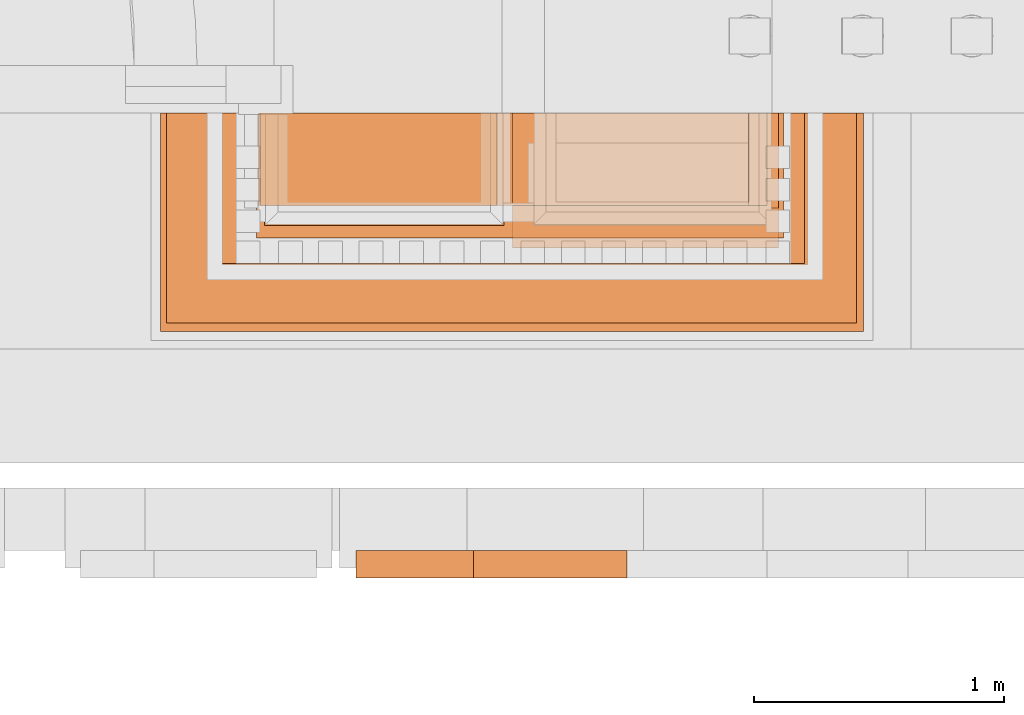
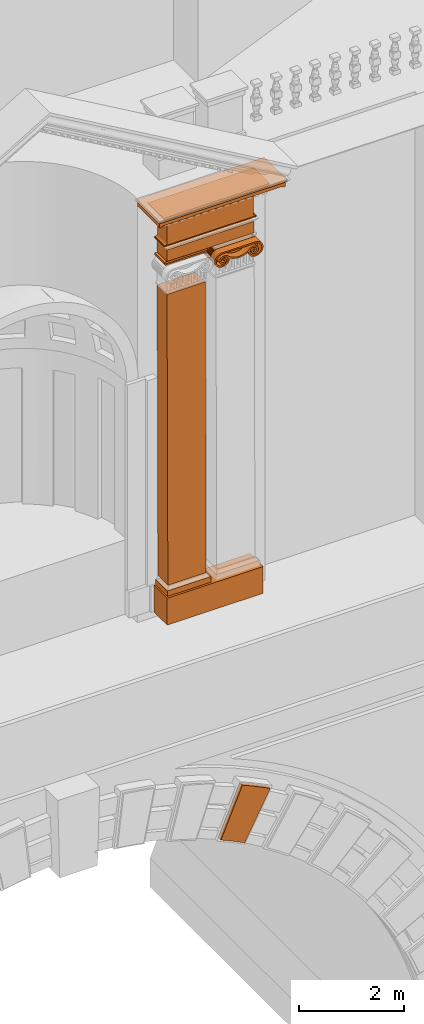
# One storey, part 9 of 44: 14 proxies.
"""IFC2X3 building model written with IfcOpenShell, lengths in metres."""

from ifc_helpers import new_model, entity, si_unit, converted_unit, derived_unit, direction, frame, frame_2d, origin, place, context, subcontext, project, spatial, polyline, circle_curve, parameter, trimmed, segment, composite_curve, rectangle, outline, extrude, material, element, save


model = new_model("IFC2X3")

# Units and contexts
model_context = context("Model", 3, precision=1e-05, world=origin(), true_north=direction((6.12303176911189e-17, 1.0)))
body_context = subcontext(model_context, "Body", "Model", "MODEL_VIEW")
ifc_project = project(units=[si_unit("LENGTHUNIT", "METRE"), si_unit("AREAUNIT", "SQUARE_METRE"), si_unit("VOLUMEUNIT", "CUBIC_METRE"), converted_unit("PLANEANGLEUNIT", "DEGREE", entity("IfcRatioMeasure", 0.0174532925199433), si_unit("PLANEANGLEUNIT", "RADIAN"), dimensions=[0, 0, 0, 0, 0, 0, 0]), si_unit("MASSUNIT", "GRAM", prefix="KILO"), derived_unit("MASSDENSITYUNIT", [(si_unit("MASSUNIT", "GRAM", prefix="KILO"), 1), (si_unit("LENGTHUNIT", "METRE"), -3)]), si_unit("TIMEUNIT", "SECOND"), si_unit("FREQUENCYUNIT", "HERTZ"), si_unit("THERMODYNAMICTEMPERATUREUNIT", "DEGREE_CELSIUS"), derived_unit("THERMALTRANSMITTANCEUNIT", [(si_unit("MASSUNIT", "GRAM", prefix="KILO"), 1), (si_unit("THERMODYNAMICTEMPERATUREUNIT", "KELVIN"), -1), (si_unit("TIMEUNIT", "SECOND"), -3)]), derived_unit("VOLUMETRICFLOWRATEUNIT", [(si_unit("LENGTHUNIT", "METRE"), 3), (si_unit("TIMEUNIT", "SECOND"), -1)]), si_unit("ELECTRICCURRENTUNIT", "AMPERE"), si_unit("ELECTRICVOLTAGEUNIT", "VOLT"), si_unit("POWERUNIT", "WATT"), si_unit("FORCEUNIT", "NEWTON", prefix="KILO"), si_unit("ILLUMINANCEUNIT", "LUX"), si_unit("LUMINOUSFLUXUNIT", "LUMEN"), si_unit("LUMINOUSINTENSITYUNIT", "CANDELA"), derived_unit("USERDEFINED", [(si_unit("MASSUNIT", "GRAM", prefix="KILO"), -1), (si_unit("LENGTHUNIT", "METRE"), -2), (si_unit("TIMEUNIT", "SECOND"), 3), (si_unit("LUMINOUSFLUXUNIT", "LUMEN"), 1)]), derived_unit("LINEARVELOCITYUNIT", [(si_unit("LENGTHUNIT", "METRE"), 1), (si_unit("TIMEUNIT", "SECOND"), -1)]), si_unit("PRESSUREUNIT", "PASCAL"), derived_unit("USERDEFINED", [(si_unit("LENGTHUNIT", "METRE"), -2), (si_unit("MASSUNIT", "GRAM", prefix="KILO"), 1), (si_unit("TIMEUNIT", "SECOND"), -2)])], contexts=[model_context])

# Site, building, storey
site_placement = place(None, origin())
site = spatial("IfcSite", under=ifc_project, at=site_placement, Name="Default", CompositionType="ELEMENT")
building_placement = place(site_placement, origin())
building = spatial("IfcBuilding", under=site, at=building_placement, CompositionType="ELEMENT")
storey_placement = place(building_placement, origin())
storey = spatial("IfcBuildingStorey", under=building, at=storey_placement, Name="Livello 1", CompositionType="ELEMENT", Elevation=0.0)

# Proxies
ifc_material_1 = material(Name="Piperno")
proxy_1_placement = place(storey_placement, frame((3.14397828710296, -0.594467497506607, 8.79862642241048)))
element("IfcBuildingElementProxy", 1, at=proxy_1_placement, inside=storey, material=ifc_material_1, Name="Stratigrafia", context=body_context, shape_type="SweptSolid", body=[
    extrude(outline(composite_curve([segment(trimmed(circle_curve(frame_2d((-1.33809374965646, 8.57336817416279), x_axis=(1.0, 0.0)), 9.28496378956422), [parameter(276.782159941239)], [parameter(280.96038991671)], True, "PARAMETER"), True, "CONTINUOUS"), segment(polyline([(0.427259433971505, -0.542227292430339), (0.191822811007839, 0.638881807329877)]), True, "CONTINUOUS"), segment(trimmed(circle_curve(frame_2d((-1.33947047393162, 8.57665166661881), x_axis=(1.0, 0.0)), 8.08412329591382), [parameter(276.834147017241)], [parameter(280.918928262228)], True, "PARAMETER"), False, "CONTINUOUS"), segment(polyline([(-0.377494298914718, 0.549967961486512), (-0.241587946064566, -0.646622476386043)]), True, "CONTINUOUS")], self_intersect=False)), frame((0.519676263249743, 0.0, 0.668647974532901), z_axis=(0.0, 1.0, 0.0), x_axis=(0.958865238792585, 0.0, -0.283861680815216)), (0.0, 0.0, 1.0), 0.11),
])
proxy_2_placement = place(storey_placement, frame((2.7483209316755, 0.763372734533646, 13.3457681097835)))
element("IfcBuildingElementProxy", 2, at=proxy_2_placement, inside=storey, material=ifc_material_1, Name="Stratigrafia", context=body_context, shape_type="SweptSolid", body=[
    extrude(rectangle(XDim=0.620950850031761, YDim=0.5, at=frame_2d((0.0, 0.0), x_axis=(0.0, 1.0))), frame((0.0, 0.25, 0.310475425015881), z_axis=(1.0, 0.0, 0.0), x_axis=(0.0, 1.0, 0.0)), (0.0, 0.0, 1.0), 2.1056955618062),
])
proxy_3_placement = place(storey_placement, frame((2.78003302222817, 0.813372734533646, 13.9667189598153)))
element("IfcBuildingElementProxy", 3, at=proxy_3_placement, inside=storey, material=ifc_material_1, Name="Stratigrafia", context=body_context, shape_type="SweptSolid", body=[
    extrude(rectangle(XDim=0.129364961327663, YDim=0.45, at=frame_2d((0.0, 0.0), x_axis=(0.0, 1.0))), frame((0.0, 0.225, 0.0646824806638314), z_axis=(1.0, 0.0, 0.0), x_axis=(0.0, 1.0, 0.0)), (0.0, 0.0, 1.0), 0.956412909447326),
])
proxy_4_placement = place(storey_placement, frame((2.81591297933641, 0.883372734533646, 14.1670132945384)))
element("IfcBuildingElementProxy", 4, at=proxy_4_placement, inside=storey, material=ifc_material_1, Name="Stratigrafia", context=body_context, shape_type="SweptSolid", body=[
    extrude(rectangle(XDim=6.74573124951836, YDim=0.38, at=frame_2d((1.2490009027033e-16, 0.0), x_axis=(0.0, 1.0))), frame((0.00875481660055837, 0.19, 3.37285426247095), z_axis=(0.999996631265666, 0.0, 0.00259566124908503), x_axis=(0.0, 1.0, 0.0)), (0.0, -0.00259566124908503, 0.999996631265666), 0.838920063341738),
])
ifc_material_2 = material(Name="Travertino")
proxy_5_placement = place(storey_placement, frame((3.76888137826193, 0.723372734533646, 21.2504881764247)))
element("IfcBuildingElementProxy", 5, at=proxy_5_placement, inside=storey, material=ifc_material_2, Name="Stratigrafia", context=body_context, shape_type="SweptSolid", body=[
    extrude(outline(composite_curve([segment(trimmed(circle_curve(frame_2d((0.0787255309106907, -0.360085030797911), x_axis=(1.0, 0.0)), 0.16781941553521), [parameter(138.334994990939)], [parameter(7.37888686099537e-11)], True, "PARAMETER"), True, "CONTINUOUS"), segment(polyline([(0.246544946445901, -0.360085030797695), (0.201674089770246, 0.387005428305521)]), True, "CONTINUOUS"), segment(trimmed(circle_curve(frame_2d((0.0350610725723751, 0.366919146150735), x_axis=(0.992811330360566, 0.119689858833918)), 0.16781941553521), [parameter(359.999999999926)], [parameter(221.665005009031)], True, "PARAMETER"), True, "CONTINUOUS"), segment(trimmed(circle_curve(frame_2d((0.414185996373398, 0.768509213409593), x_axis=(-0.680862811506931, -0.73241097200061)), 0.720026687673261), [parameter(1.57246623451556e-11)], [parameter(0.524781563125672)], True, "PARAMETER"), True, "CONTINUOUS"), segment(trimmed(circle_curve(frame_2d((0.0654093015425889, 0.385758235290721), x_axis=(-0.675623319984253, -0.737246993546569)), 0.202201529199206), [parameter(5.00746529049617e-11)], [parameter(2.78712703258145)], True, "PARAMETER"), True, "CONTINUOUS"), segment(trimmed(circle_curve(frame_2d((0.0034302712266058, 0.311114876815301), x_axis=(-0.63911629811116, -0.76911010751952)), 0.105180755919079), [parameter(359.999999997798)], [parameter(5.29737023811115)], True, "PARAMETER"), True, "CONTINUOUS"), segment(trimmed(circle_curve(frame_2d((-0.0122994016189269, 0.288731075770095), x_axis=(-0.561992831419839, -0.827142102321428)), 0.0778253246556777), [parameter(3.11948803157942e-10)], [parameter(11.8444704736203)], True, "PARAMETER"), True, "CONTINUOUS"), segment(trimmed(circle_curve(frame_2d((-0.00650885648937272, 0.302109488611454), x_axis=(-0.382936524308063, -0.923774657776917)), 0.0924010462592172), [parameter(5.64917400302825e-10)], [parameter(4.23396444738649)], True, "PARAMETER"), True, "CONTINUOUS"), segment(trimmed(circle_curve(frame_2d((0.0100793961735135, 0.315934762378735), x_axis=(0.273943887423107, 0.961745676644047)), 0.111318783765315), [parameter(171.73216175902)], [parameter(203.761085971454)], True, "PARAMETER"), True, "CONTINUOUS"), segment(trimmed(circle_curve(frame_2d((0.351764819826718, 0.0211272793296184), x_axis=(-0.80538962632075, -0.592745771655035)), 0.375004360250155), [parameter(294.170004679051)], [parameter(359.999999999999)], True, "PARAMETER"), True, "CONTINUOUS"), segment(trimmed(circle_curve(frame_2d((0.0478211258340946, -0.312457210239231), x_axis=(0.387085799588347, -0.922043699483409)), 0.111318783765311), [parameter(156.238914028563)], [parameter(188.26783824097)], True, "PARAMETER"), True, "CONTINUOUS"), segment(trimmed(circle_curve(frame_2d((0.0296973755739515, -0.300716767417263), x_axis=(-0.49075017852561, 0.871300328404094)), 0.0924010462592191), [parameter(355.766035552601)], [parameter(359.999999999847)], True, "PARAMETER"), True, "CONTINUOUS"), segment(trimmed(circle_curve(frame_2d((0.0223471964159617, -0.288127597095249), x_axis=(-0.656953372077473, 0.753931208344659)), 0.0778253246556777), [parameter(348.155529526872)], [parameter(359.999999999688)], True, "PARAMETER"), True, "CONTINUOUS"), segment(trimmed(circle_curve(frame_2d((0.0406429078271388, -0.308467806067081), x_axis=(-0.726576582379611, 0.687085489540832)), 0.105180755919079), [parameter(354.702629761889)], [parameter(2.20252139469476e-09)], True, "PARAMETER"), True, "CONTINUOUS"), segment(trimmed(circle_curve(frame_2d((0.11111044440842, -0.37515631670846), x_axis=(-0.759007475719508, 0.651081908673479)), 0.202201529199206), [parameter(357.21287296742)], [parameter(359.999999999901)], True, "PARAMETER"), True, "CONTINUOUS"), segment(trimmed(circle_curve(frame_2d((0.503191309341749, -0.713410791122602), x_axis=(-0.763630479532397, 0.645653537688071)), 0.72002668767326), [parameter(359.475218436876)], [parameter(359.999999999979)], True, "PARAMETER"), True, "CONTINUOUS")], self_intersect=False), holes=[composite_curve([segment(trimmed(circle_curve(frame_2d((0.0296569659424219, -0.26637388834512), x_axis=(0.295331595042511, -0.955394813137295)), 0.160844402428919), [parameter(359.999999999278)], [parameter(5.20756886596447)], True, "PARAMETER"), True, "CONTINUOUS"), segment(trimmed(circle_curve(frame_2d((0.0478211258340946, -0.312457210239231), x_axis=(0.387085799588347, -0.922043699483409)), 0.111318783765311), [parameter(359.999999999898)], [parameter(121.742469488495)], True, "PARAMETER"), True, "CONTINUOUS"), segment(trimmed(circle_curve(frame_2d((0.351764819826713, 0.0211272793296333), x_axis=(-0.701786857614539, -0.712386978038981)), 0.341023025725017), [parameter(357.930960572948)], [parameter(1.17553301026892e-11)], True, "PARAMETER"), False, "CONTINUOUS"), segment(trimmed(circle_curve(frame_2d((0.351764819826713, 0.0211272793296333), x_axis=(-0.701786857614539, -0.712386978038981)), 0.341023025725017), [parameter(276.015284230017)], [parameter(357.930960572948)], True, "PARAMETER"), False, "CONTINUOUS"), segment(trimmed(circle_curve(frame_2d((0.0100793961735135, 0.315934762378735), x_axis=(0.273943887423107, 0.961745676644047)), 0.111318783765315), [parameter(238.257530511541)], [parameter(1.04576637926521e-10)], True, "PARAMETER"), True, "CONTINUOUS"), segment(trimmed(circle_curve(frame_2d((-0.00243848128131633, 0.268008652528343), x_axis=(0.178857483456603, 0.983874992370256)), 0.160844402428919), [parameter(354.792431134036)], [parameter(3.45942571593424e-10)], True, "PARAMETER"), True, "CONTINUOUS"), segment(trimmed(circle_curve(frame_2d((0.0120654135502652, 0.34855128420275), x_axis=(-0.97200284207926, 0.234969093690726)), 0.0790065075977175), [parameter(273.188220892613)], [parameter(2.02537722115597e-11)], True, "PARAMETER"), True, "CONTINUOUS"), segment(trimmed(circle_curve(frame_2d((0.0219940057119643, 0.35202260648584), x_axis=(-0.899948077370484, -0.435997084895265)), 0.0880266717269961), [parameter(324.278715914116)], [parameter(1.66915509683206e-11)], True, "PARAMETER"), True, "CONTINUOUS"), segment(trimmed(circle_curve(frame_2d((0.00683135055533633, 0.344085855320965), x_axis=(-0.691793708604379, -0.722095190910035)), 0.0709226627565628), [parameter(339.191403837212)], [parameter(359.999999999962)], True, "PARAMETER"), True, "CONTINUOUS"), segment(trimmed(circle_curve(frame_2d((-0.0044183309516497, 0.331612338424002), x_axis=(-0.0602856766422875, -0.998181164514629)), 0.0541354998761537), [parameter(319.148653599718)], [parameter(359.999999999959)], True, "PARAMETER"), True, "CONTINUOUS"), segment(polyline([(-0.00768192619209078, 0.277575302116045), (0.0045505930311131, 0.277674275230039)]), True, "CONTINUOUS"), segment(polyline([(0.0045505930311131, 0.277674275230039), (0.0163739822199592, 0.280802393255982)]), True, "CONTINUOUS"), segment(polyline([(0.0163739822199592, 0.280802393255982), (0.0270458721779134, 0.286763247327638)]), True, "CONTINUOUS"), segment(polyline([(0.0270458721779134, 0.286763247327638), (0.0358961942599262, 0.295182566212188)]), True, "CONTINUOUS"), segment(polyline([(0.0358961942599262, 0.295182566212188), (0.0423692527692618, 0.30553171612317)]), True, "CONTINUOUS"), segment(polyline([(0.0423692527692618, 0.30553171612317), (0.0460586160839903, 0.317160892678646)]), True, "CONTINUOUS"), segment(polyline([(0.0460586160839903, 0.317160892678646), (0.0467326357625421, 0.329339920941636)]), True, "CONTINUOUS"), segment(polyline([(0.0467326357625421, 0.329339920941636), (0.0443489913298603, 0.341304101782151)]), True, "CONTINUOUS"), segment(trimmed(circle_curve(frame_2d((0.0290576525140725, 0.333702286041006), x_axis=(-0.983154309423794, -0.182777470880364)), 0.0170766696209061), [parameter(195.90186506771)], [parameter(3.20599911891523e-12)], True, "PARAMETER"), True, "CONTINUOUS"), segment(trimmed(circle_curve(frame_2d((-0.0018332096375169, 0.32592647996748), x_axis=(0.949609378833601, 0.313435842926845)), 0.0148501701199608), [parameter(257.204928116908)], [parameter(360.0)], True, "PARAMETER"), False, "CONTINUOUS"), segment(trimmed(circle_curve(frame_2d((-0.00196165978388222, 0.326174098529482), x_axis=(0.102214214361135, -0.994762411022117)), 0.0151092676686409), [parameter(347.420423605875)], [parameter(4.57389207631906e-10)], True, "PARAMETER"), False, "CONTINUOUS"), segment(trimmed(circle_curve(frame_2d((-0.00394145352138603, 0.33230876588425), x_axis=(0.0101038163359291, -0.999948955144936)), 0.0211414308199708), [parameter(315.114326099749)], [parameter(359.999999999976)], True, "PARAMETER"), False, "CONTINUOUS"), segment(trimmed(circle_curve(frame_2d((0.00683135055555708, 0.344085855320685), x_axis=(-0.688455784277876, -0.725278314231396)), 0.037097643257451), [parameter(338.739254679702)], [parameter(2.05438387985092e-10)], True, "PARAMETER"), False, "CONTINUOUS"), segment(trimmed(circle_curve(frame_2d((0.021994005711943, 0.352022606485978), x_axis=(-0.898883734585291, -0.43818721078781)), 0.0542016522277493), [parameter(325.321462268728)], [parameter(1.02286638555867e-10)], True, "PARAMETER"), False, "CONTINUOUS"), segment(trimmed(circle_curve(frame_2d((0.012065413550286, 0.348551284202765), x_axis=(-0.966121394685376, 0.258088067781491)), 0.0451814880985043), [parameter(274.521210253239)], [parameter(2.59533262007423e-11)], True, "PARAMETER"), False, "CONTINUOUS"), segment(trimmed(circle_curve(frame_2d((-0.00243848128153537, 0.268008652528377), x_axis=(0.17861447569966, 0.983919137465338)), 0.127019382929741), [parameter(354.831611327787)], [parameter(359.999999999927)], True, "PARAMETER"), False, "CONTINUOUS"), segment(trimmed(circle_curve(frame_2d((0.0099262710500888, 0.315856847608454), x_axis=(0.276878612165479, 0.960904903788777)), 0.0776109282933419), [parameter(169.426101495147)], [parameter(1.4538951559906e-10)], True, "PARAMETER"), False, "CONTINUOUS"), segment(trimmed(circle_curve(frame_2d((-0.00650885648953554, 0.302109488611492), x_axis=(-0.38373334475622, -0.923443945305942)), 0.0585760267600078), [parameter(2.60703706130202e-10)], [parameter(4.28424685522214)], True, "PARAMETER"), False, "CONTINUOUS"), segment(trimmed(circle_curve(frame_2d((-0.012299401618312, 0.288731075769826), x_axis=(-0.56074832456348, -0.827986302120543)), 0.0440003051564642), [parameter(3.41464350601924e-11)], [parameter(11.8204528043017)], True, "PARAMETER"), False, "CONTINUOUS"), segment(trimmed(circle_curve(frame_2d((0.00347121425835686, 0.311169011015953), x_axis=(-0.639149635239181, -0.769082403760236)), 0.071423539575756), [parameter(359.999999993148)], [parameter(5.23917008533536)], True, "PARAMETER"), False, "CONTINUOUS"), segment(trimmed(circle_curve(frame_2d((0.0654093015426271, 0.385758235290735), x_axis=(-0.67576849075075, -0.737113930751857)), 0.168376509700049), [parameter(9.52130849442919e-11)], [parameter(2.79841011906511)], True, "PARAMETER"), False, "CONTINUOUS"), segment(trimmed(circle_curve(frame_2d((0.41418599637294, 0.768509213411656), x_axis=(-0.681339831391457, -0.731967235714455)), 0.68620166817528), [parameter(1.32311074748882e-12)], [parameter(0.565071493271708)], True, "PARAMETER"), False, "CONTINUOUS"), segment(trimmed(circle_curve(frame_2d((0.0350610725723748, 0.366919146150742), x_axis=(0.992811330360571, 0.119689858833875)), 0.133994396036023), [parameter(360.0)], [parameter(221.839978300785)], True, "PARAMETER"), False, "CONTINUOUS"), segment(polyline([(0.16809222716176, 0.382956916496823), (0.212470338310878, -0.351910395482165)]), True, "CONTINUOUS"), segment(trimmed(circle_curve(frame_2d((0.0787255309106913, -0.36008503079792), x_axis=(1.0, 0.0)), 0.133994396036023), [parameter(138.160021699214)], [parameter(3.49763230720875)], True, "PARAMETER"), False, "CONTINUOUS"), segment(trimmed(circle_curve(frame_2d((0.503191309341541, -0.713410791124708), x_axis=(-0.764050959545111, 0.645155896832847)), 0.68620166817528), [parameter(359.434928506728)], [parameter(359.999999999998)], True, "PARAMETER"), False, "CONTINUOUS"), segment(trimmed(circle_curve(frame_2d((0.11111044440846, -0.375156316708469), x_axis=(-0.759135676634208, 0.65093242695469)), 0.168376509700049), [parameter(357.201589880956)], [parameter(359.999999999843)], True, "PARAMETER"), False, "CONTINUOUS"), segment(trimmed(circle_curve(frame_2d((0.0406900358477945, -0.308516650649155), x_axis=(-0.726606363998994, 0.687053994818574)), 0.0714235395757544), [parameter(354.760829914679)], [parameter(6.52532776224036e-09)], True, "PARAMETER"), False, "CONTINUOUS"), segment(trimmed(circle_curve(frame_2d((0.0223471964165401, -0.288127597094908), x_axis=(-0.655818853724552, 0.754918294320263)), 0.0440003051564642), [parameter(348.179547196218)], [parameter(359.999999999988)], True, "PARAMETER"), False, "CONTINUOUS"), segment(trimmed(circle_curve(frame_2d((0.0296973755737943, -0.300716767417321), x_axis=(-0.491501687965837, 0.870876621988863)), 0.0585760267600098), [parameter(355.715753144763)], [parameter(1.29664853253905e-10)], True, "PARAMETER"), False, "CONTINUOUS"), segment(trimmed(circle_curve(frame_2d((0.04765977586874, -0.312398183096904), x_axis=(0.389898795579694, -0.92085771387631)), 0.0776109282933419), [parameter(359.999999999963)], [parameter(190.573898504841)], True, "PARAMETER"), False, "CONTINUOUS"), segment(trimmed(circle_curve(frame_2d((0.0296569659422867, -0.26637388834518), x_axis=(0.295095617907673, -0.955467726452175)), 0.127019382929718), [parameter(1.52310402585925e-10)], [parameter(5.1683886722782)], True, "PARAMETER"), False, "CONTINUOUS"), segment(trimmed(circle_curve(frame_2d((0.0536967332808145, -0.344601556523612), x_axis=(-0.928285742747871, -0.371867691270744)), 0.0451814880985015), [parameter(359.999999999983)], [parameter(85.4787897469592)], True, "PARAMETER"), False, "CONTINUOUS"), segment(trimmed(circle_curve(frame_2d((0.0639694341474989, -0.34685957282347), x_axis=(-0.944868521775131, 0.327449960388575)), 0.0542016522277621), [parameter(359.999999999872)], [parameter(34.6785377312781)], True, "PARAMETER"), False, "CONTINUOUS"), segment(trimmed(circle_curve(frame_2d((0.0479658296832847, -0.340794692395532), x_axis=(-0.770315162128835, 0.63766335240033)), 0.0370976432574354), [parameter(359.999999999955)], [parameter(21.2607453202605)], True, "PARAMETER"), False, "CONTINUOUS"), segment(trimmed(circle_curve(frame_2d((0.0358608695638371, -0.330391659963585), x_axis=(-0.109652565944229, 0.993969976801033)), 0.0211414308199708), [parameter(359.999999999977)], [parameter(44.8856739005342)], True, "PARAMETER"), False, "CONTINUOUS"), segment(trimmed(circle_curve(frame_2d((0.0370921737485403, -0.324064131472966), x_axis=(-0.0175835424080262, 0.999845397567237)), 0.0151092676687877), [parameter(359.999999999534)], [parameter(12.5795763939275)], True, "PARAMETER"), False, "CONTINUOUS"), segment(trimmed(circle_curve(frame_2d((0.03719006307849, -0.32380291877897), x_axis=(0.980298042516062, -0.197524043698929)), 0.0148501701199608), [parameter(3.05333249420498e-13)], [parameter(102.795071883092)], True, "PARAMETER"), False, "CONTINUOUS"), segment(trimmed(circle_curve(frame_2d((0.0687895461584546, -0.327825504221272), x_axis=(-0.997963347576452, 0.0637899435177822)), 0.0170766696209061), [parameter(359.999999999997)], [parameter(164.098134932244)], True, "PARAMETER"), True, "CONTINUOUS"), segment(polyline([(0.0848808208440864, -0.333542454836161), (0.0858153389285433, -0.321378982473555)]), True, "CONTINUOUS"), segment(polyline([(0.0858153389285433, -0.321378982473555), (0.0836884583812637, -0.309368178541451)]), True, "CONTINUOUS"), segment(polyline([(0.0836884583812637, -0.309368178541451), (0.0786337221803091, -0.298264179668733)]), True, "CONTINUOUS"), segment(polyline([(0.0786337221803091, -0.298264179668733), (0.0709685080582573, -0.288764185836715)]), True, "CONTINUOUS"), segment(polyline([(0.0709685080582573, -0.288764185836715), (0.0611741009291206, -0.281464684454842)]), True, "CONTINUOUS"), segment(polyline([(0.0611741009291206, -0.281464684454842), (0.049865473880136, -0.27682399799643)]), True, "CONTINUOUS"), segment(polyline([(0.049865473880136, -0.27682399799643), (0.0377526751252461, -0.27513350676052)]), True, "CONTINUOUS"), segment(polyline([(0.0377526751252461, -0.27513350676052), (0.0255962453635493, -0.276499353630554)]), True, "CONTINUOUS"), segment(trimmed(circle_curve(frame_2d((0.0353040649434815, -0.329757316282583), x_axis=(-0.179324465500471, 0.983789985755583)), 0.054135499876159), [parameter(4.21868772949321e-11)], [parameter(40.8513464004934)], True, "PARAMETER"), True, "CONTINUOUS"), segment(trimmed(circle_curve(frame_2d((0.047965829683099, -0.340794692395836), x_axis=(-0.773248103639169, 0.634103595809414)), 0.0709226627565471), [parameter(1.98110389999e-10)], [parameter(20.8085961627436)], True, "PARAMETER"), True, "CONTINUOUS"), segment(trimmed(circle_curve(frame_2d((0.0639694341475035, -0.346859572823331), x_axis=(-0.945663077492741, 0.325148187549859)), 0.0880266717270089), [parameter(359.999999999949)], [parameter(35.7212840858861)], True, "PARAMETER"), True, "CONTINUOUS"), segment(trimmed(circle_curve(frame_2d((0.053696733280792, -0.344601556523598), x_axis=(-0.936892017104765, -0.349618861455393)), 0.0790065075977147), [parameter(359.999999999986)], [parameter(86.8117791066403)], True, "PARAMETER"), True, "CONTINUOUS")], self_intersect=False)]), frame((0.533458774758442, 0.0, 0.11240374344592), z_axis=(0.0, 1.0, 0.0), x_axis=(-0.0599527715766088, 0.0, 0.998201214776)), (0.0, 0.0, 1.0), 0.54),
])
proxy_6_placement = place(storey_placement, frame((3.76896581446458, 0.883372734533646, 21.2505882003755)))
element("IfcBuildingElementProxy", 6, at=proxy_6_placement, inside=storey, material=ifc_material_2, Name="Stratigrafia", context=body_context, shape_type="SweptSolid", body=[
    extrude(outline(composite_curve([segment(polyline([(-0.374218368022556, -0.123559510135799), (0.374218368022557, -0.123559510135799)]), True, "CONTINUOUS"), segment(trimmed(circle_curve(frame_2d((0.36415712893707, 0.0439580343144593), x_axis=(0.0599527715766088, -0.998201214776)), 0.16781941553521), [parameter(359.999999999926)], [parameter(238.247282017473)], True, "PARAMETER"), True, "CONTINUOUS"), segment(polyline([(0.216417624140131, 0.123559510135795), (-0.21641762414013, 0.123559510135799)]), True, "CONTINUOUS"), segment(trimmed(circle_curve(frame_2d((-0.364157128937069, 0.0439580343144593), x_axis=(-0.0599527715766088, -0.998201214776)), 0.16781941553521), [parameter(121.752717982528)], [parameter(7.45013128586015e-11)], True, "PARAMETER"), True, "CONTINUOUS")], self_intersect=False)), frame((0.533374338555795, 0.0, 0.213257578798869), z_axis=(0.0, 1.0, 0.0), x_axis=(1.0, 0.0, 0.0)), (0.0, 0.0, 1.0), 0.38),
])
proxy_7_placement = place(storey_placement, frame((2.76134095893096, 0.893372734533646, 21.5874052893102)))
element("IfcBuildingElementProxy", 7, at=proxy_7_placement, inside=storey, Name="Stratigrafia", context=body_context, shape_type="SweptSolid", body=[
    extrude(outline(polyline([(-0.444158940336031, -0.0175491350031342), (0.448323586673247, -0.0175491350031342), (0.472017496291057, 0.0175491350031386), (-0.476182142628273, 0.0175491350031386), (-0.444158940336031, -0.0175491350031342)])), frame((0.472017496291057, 0.0, 0.0175491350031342), z_axis=(0.0, 1.0, 0.0), x_axis=(-1.0, 0.0, 0.0)), (0.0, 0.0, 1.0), 0.37),
])
proxy_8_placement = place(storey_placement, frame((2.76134095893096, 0.893372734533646, 21.6225035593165)))
element("IfcBuildingElementProxy", 8, at=proxy_8_placement, inside=storey, Name="Stratigrafia", context=body_context, shape_type="SweptSolid", body=[
    extrude(rectangle(XDim=0.0459747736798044, YDim=0.37, at=frame_2d((-6.93889390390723e-17, 0.0), x_axis=(0.0, 1.0))), frame((0.0, 0.185, 0.0229873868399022), z_axis=(1.0, 0.0, 0.0), x_axis=(0.0, 1.0, 0.0)), (0.0, 0.0, 1.0), 0.948246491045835),
])
proxy_9_placement = place(storey_placement, frame((2.81769786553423, 0.893372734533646, 21.6684783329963)))
element("IfcBuildingElementProxy", 9, at=proxy_9_placement, inside=storey, material=ifc_material_1, Name="Stratigrafia", context=body_context, shape_type="SweptSolid", body=[
    extrude(rectangle(XDim=0.26847379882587, YDim=0.37, at=frame_2d((-6.93889390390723e-17, -2.16493489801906e-15), x_axis=(0.0, 1.0))), frame((0.0, 0.185, 0.134236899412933), z_axis=(1.0, 0.0, 0.0), x_axis=(0.0, 1.0, 0.0)), (0.0, 0.0, 1.0), 1.90592544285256),
])
proxy_10_placement = place(storey_placement, frame((2.76700646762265, 0.893372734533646, 22.0480384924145)))
element("IfcBuildingElementProxy", 10, at=proxy_10_placement, inside=storey, material=ifc_material_2, Name="Stratigrafia", context=body_context, shape_type="SweptSolid", body=[
    extrude(outline(composite_curve([segment(polyline([(-0.331614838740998, 0.941141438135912), (-0.331614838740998, -0.947546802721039)]), True, "CONTINUOUS"), segment(polyline([(-0.331614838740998, -0.947546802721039), (0.131686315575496, -0.947546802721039)]), True, "CONTINUOUS"), segment(trimmed(circle_curve(frame_2d((0.13591131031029, -1.00733902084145), x_axis=(0.997512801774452, -0.0704855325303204)), 0.059941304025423), [parameter(8.0837501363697)], [parameter(98.0837501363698)], True, "PARAMETER"), False, "CONTINUOUS"), segment(polyline([(0.195703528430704, -1.00311402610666), (0.195703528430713, 1.01592475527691)]), True, "CONTINUOUS"), segment(trimmed(circle_curve(frame_2d((0.110522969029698, 1.02118149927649), x_axis=(0.998101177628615, -0.06159577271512)), 0.0853426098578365), [parameter(293.834950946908)], [parameter(9.40426408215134e-11)], True, "PARAMETER"), False, "CONTINUOUS"), segment(polyline([(0.140136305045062, 0.941141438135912), (-0.331614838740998, 0.941141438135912)]), True, "CONTINUOUS")], self_intersect=False)), frame((1.00470929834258, 0.0, 0.197298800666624), z_axis=(0.0, -1.0, 0.0), x_axis=(0.0, 0.0, -1.0)), (0.0, 0.0, -1.0), 0.37),
])
proxy_11_placement = place(storey_placement, frame((2.75265175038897, 0.893372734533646, 22.0266454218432)))
element("IfcBuildingElementProxy", 11, at=proxy_11_placement, inside=storey, material=ifc_material_1, Name="Stratigrafia", context=body_context, shape_type="SweptSolid", body=[
    extrude(rectangle(XDim=0.0229883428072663, YDim=0.37, at=frame_2d((-6.93889390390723e-17, 0.0), x_axis=(0.0, 1.0))), frame((0.0, 0.185, 0.0114941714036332), z_axis=(1.0, 0.0, 0.0), x_axis=(0.0, 1.0, 0.0)), (0.0, 0.0, 1.0), 2.03498877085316),
])
proxy_12_placement = place(storey_placement, frame((2.36430915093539, 0.390957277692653, 23.0063153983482)))
element("IfcBuildingElementProxy", 12, at=proxy_12_placement, inside=storey, material=ifc_material_1, Name="Stratigrafia", context=body_context, shape_type="SweptSolid", body=[
    extrude(rectangle(XDim=0.0363925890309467, YDim=0.872415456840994, at=frame_2d((0.0, 0.0), x_axis=(0.0, 1.0))), frame((0.0, 0.436207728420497, 0.0181962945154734), z_axis=(1.0, 0.0, 0.0), x_axis=(0.0, 1.0, 0.0)), (0.0, 0.0, 1.0), 2.80857274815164),
])
proxy_13_placement = place(storey_placement, frame((2.38884946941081, 0.423372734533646, 22.8805538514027)))
element("IfcBuildingElementProxy", 13, at=proxy_13_placement, inside=storey, material=ifc_material_1, Name="Stratigrafia", context=body_context, shape_type="SweptSolid", body=[
    extrude(outline(composite_curve([segment(polyline([(-1.37464440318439, -0.0958582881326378), (1.3811008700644, -0.0958582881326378)]), True, "CONTINUOUS"), segment(polyline([(1.3811008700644, -0.0958582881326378), (1.3811008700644, 0.0283079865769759)]), True, "CONTINUOUS"), segment(polyline([(1.3811008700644, 0.0283079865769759), (1.3399566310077, 0.028307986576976)]), True, "CONTINUOUS"), segment(trimmed(circle_curve(frame_2d((1.40168375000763, -0.130507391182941), x_axis=(-0.434562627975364, 0.900641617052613)), 0.170389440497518), [parameter(355.482252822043)], [parameter(9.6688862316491e-12)], True, "PARAMETER"), True, "CONTINUOUS"), segment(trimmed(circle_curve(frame_2d((1.36418086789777, -0.0568755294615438), x_axis=(-0.665091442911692, 0.746761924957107)), 0.0877941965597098), [parameter(342.907043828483)], [parameter(359.999999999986)], True, "PARAMETER"), True, "CONTINUOUS"), segment(trimmed(circle_curve(frame_2d((1.33490071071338, -0.0221742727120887), x_axis=(-0.774172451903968, 0.63297473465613)), 0.0424240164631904), [parameter(352.599342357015)], [parameter(359.999999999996)], True, "PARAMETER"), True, "CONTINUOUS"), segment(polyline([(1.30205720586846, 0.00467905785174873), (-1.30619283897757, 0.00470999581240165)]), True, "CONTINUOUS"), segment(trimmed(circle_curve(frame_2d((-1.33387887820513, -0.0106768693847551), x_axis=(0.676146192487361, 0.736767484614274)), 0.0316744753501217), [parameter(341.606890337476)], [parameter(359.999999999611)], True, "PARAMETER"), True, "CONTINUOUS"), segment(trimmed(circle_curve(frame_2d((-1.36485015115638, -0.0461607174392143), x_axis=(0.41621296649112, 0.909267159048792)), 0.0787676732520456), [parameter(342.906245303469)], [parameter(359.999999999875)], True, "PARAMETER"), True, "CONTINUOUS"), segment(trimmed(circle_curve(frame_2d((-1.39381712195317, -0.102032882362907), x_axis=(0.397147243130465, 0.917754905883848)), 0.141660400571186), [parameter(357.556786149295)], [parameter(1.52666624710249e-13)], True, "PARAMETER"), True, "CONTINUOUS"), segment(polyline([(-1.33755708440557, 0.02797664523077), (-1.37472148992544, 0.0279766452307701)]), True, "CONTINUOUS"), segment(polyline([(-1.37472148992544, 0.0279766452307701), (-1.37464440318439, -0.0958582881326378)]), True, "CONTINUOUS")], self_intersect=False)), frame((1.37472148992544, 0.0, 0.0299032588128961), z_axis=(0.0, 1.0, 0.0), x_axis=(1.0, 0.0, 0.0)), (0.0, 0.0, 1.0), 0.84),
])
proxy_14_placement = place(storey_placement, frame((2.60869669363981, 0.661139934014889, 22.8155235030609)))
element("IfcBuildingElementProxy", 14, at=proxy_14_placement, inside=storey, material=ifc_material_1, Name="Stratigrafia", context=body_context, shape_type="SweptSolid", body=[
    extrude(outline(composite_curve([segment(trimmed(circle_curve(frame_2d((1.0753705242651, 0.16538884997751), x_axis=(1.0, 0.0)), 0.0768787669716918), [parameter(292.775176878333)], [parameter(4.73266536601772e-12)], True, "PARAMETER"), True, "CONTINUOUS"), segment(polyline([(1.15224929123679, 0.165388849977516), (-1.15968712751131, -0.100785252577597)]), True, "CONTINUOUS"), segment(trimmed(circle_curve(frame_2d((-1.08481975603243, -0.0833146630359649), x_axis=(-0.973836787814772, -0.227248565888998)), 0.0768787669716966), [parameter(359.999999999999)], [parameter(67.2248231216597)], True, "PARAMETER"), True, "CONTINUOUS"), segment(polyline([(-1.09769370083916, -0.159107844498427), (1.10513153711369, 0.0945042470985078)]), True, "CONTINUOUS")], self_intersect=False)), frame((1.16519944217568, 0.0, 0.0341104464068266), z_axis=(0.0, 1.0, 0.0), x_axis=(-0.993437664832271, 0.0, -0.114374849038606)), (0.0, 0.0, 1.0), 0.602232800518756),
])

save(model, "model.ifc")
